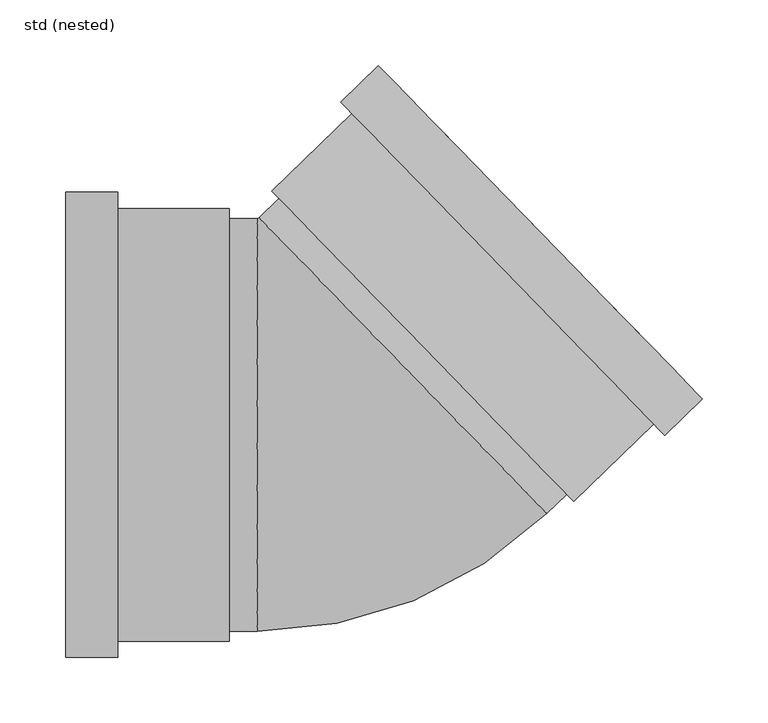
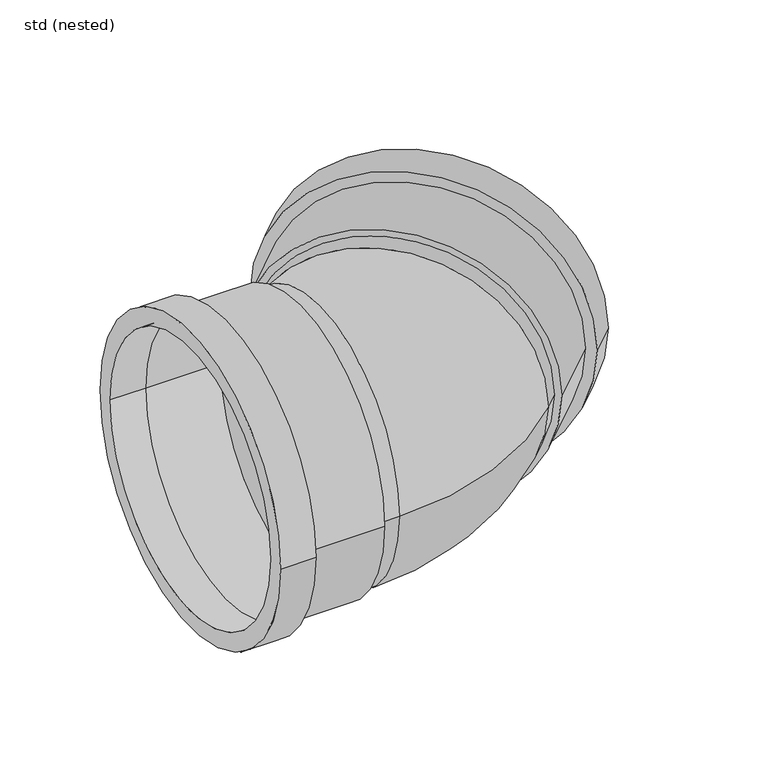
"""IFC4 building model written with IfcOpenShell, lengths in millimetres: pipe fitting geometry, NLRS_52_PIF_UN_SN4 SN8 bocht -SH_Dyka : std (nested)."""

from ifc_helpers import new_model, si_unit, point, frame, origin, place, context, project, spatial, polyline, circle_curve, ellipse_curve, trimmed, source, transform, mapped, element, save
from ifc_brep_helpers import plane_surface, cylinder_surface, revolved_surface, advanced_brep


def std_nested_a8e47236(model_context):
    return source(origin(), model_context, "Body", "AdvancedBrep", [
        advanced_brep(
        [(-211.0, -177.5, 0.0), (-211.0, 177.5, 0.0), (-211.0, -157.5, 0.0), (-211.0, 157.5, 0.0), (-171.0, -157.5, 0.0), (-171.0, 157.5, 0.0), (-171.0, -177.5, 0.0), (-171.0, 177.5, 0.0), (-171.0, -165.2, 0.0), (-171.0, 165.2, 0.0), (-86.0, -165.2, 0.0), (-86.0, 165.2, 0.0), (-86.0, -157.5, 0.0), (-86.0, 157.5, 0.0)],
        [
            (0, 1, circle_curve(frame((-211.0, 0.0, 0.0), z_axis=(-1.0, 0.0, 0.0), x_axis=(0.0, 1.0, 0.0)), 177.5)),
            (1, 0, circle_curve(frame((-211.0, 0.0, 0.0), z_axis=(-1.0, 0.0, 0.0), x_axis=(0.0, 1.0, 0.0)), 177.5)),
            (2, 3, circle_curve(frame((-211.0, 0.0, 0.0), z_axis=(1.0, 0.0, 0.0), x_axis=(0.0, 1.0, 0.0)), 157.5)),
            (3, 2, circle_curve(frame((-211.0, 0.0, 0.0), z_axis=(1.0, 0.0, 0.0), x_axis=(0.0, 1.0, 0.0)), 157.5)),
            (2, 4),
            (4, 5, circle_curve(frame((-171.0, 0.0, 0.0), z_axis=(1.0, 0.0, 0.0), x_axis=(0.0, 1.0, 0.0)), 157.5)),
            (5, 3),
            (5, 4, circle_curve(frame((-171.0, 0.0, 0.0), z_axis=(1.0, 0.0, 0.0), x_axis=(0.0, 1.0, 0.0)), 157.5)),
            (0, 6),
            (6, 7, circle_curve(frame((-171.0, 0.0, 0.0), z_axis=(-1.0, 0.0, 0.0), x_axis=(0.0, 1.0, 0.0)), 177.5)),
            (7, 1),
            (7, 6, circle_curve(frame((-171.0, 0.0, 0.0), z_axis=(-1.0, 0.0, 0.0), x_axis=(0.0, 1.0, 0.0)), 177.5)),
            (8, 9, circle_curve(frame((-171.0, 0.0, 0.0), z_axis=(-1.0, 0.0, 0.0), x_axis=(0.0, 1.0, 0.0)), 165.2)),
            (9, 8, circle_curve(frame((-171.0, 0.0, 0.0), z_axis=(-1.0, 0.0, 0.0), x_axis=(0.0, 1.0, 0.0)), 165.2)),
            (10, 11, circle_curve(frame((-86.0, 0.0, 0.0), z_axis=(1.0, 0.0, 0.0), x_axis=(0.0, 1.0, 0.0)), 165.2)),
            (11, 10, circle_curve(frame((-86.0, 0.0, 0.0), z_axis=(1.0, 0.0, 0.0), x_axis=(0.0, 1.0, 0.0)), 165.2)),
            (12, 13, circle_curve(frame((-86.0, 0.0, 0.0), z_axis=(-1.0, 0.0, 0.0), x_axis=(0.0, 1.0, 0.0)), 157.5)),
            (13, 12, circle_curve(frame((-86.0, 0.0, 0.0), z_axis=(-1.0, 0.0, 0.0), x_axis=(0.0, 1.0, 0.0)), 157.5)),
            (13, 5),
            (4, 12),
            (11, 9),
            (8, 10),
        ],
        [
            plane_surface(frame((-211.0, 157.5, 0.0), z_axis=(-1.0, 0.0, 0.0), x_axis=(0.0, 0.0, 1.0))),
            revolved_surface(polyline([(-171.0, 157.5, 0.0), (-211.0, 157.5, 0.0)]), (-171.0, 0.0, 0.0), (1.0, 0.0, 0.0)),
            cylinder_surface(frame((-86.0, 0.0, 0.0), z_axis=(-1.0, 0.0, 0.0), x_axis=(0.0, 1.0, 0.0)), 177.5),
            plane_surface(frame((-171.0, 157.5, 0.0), z_axis=(1.0, 0.0, 0.0), x_axis=(0.0, 0.0, -1.0))),
            plane_surface(frame((-86.0, 157.5, 0.0), z_axis=(1.0, 0.0, 0.0), x_axis=(0.0, 0.0, -1.0))),
            revolved_surface(polyline([(-86.0, 157.5, 0.0), (-171.0, 157.5, 0.0)]), (-86.0, 0.0, 0.0), (1.0, 0.0, 0.0)),
            cylinder_surface(frame((-86.0, 0.0, 0.0), z_axis=(-1.0, 0.0, 0.0), x_axis=(0.0, 1.0, 0.0)), 165.2),
        ],
        [
            (0, [[1, 2], [3, 4]]),
            (1, [[-3, 5, 6, 7]]),
            (1, [[-4, -7, 8, -5]]),
            (2, [[-1, 9, 10, 11]]),
            (2, [[-2, -11, 12, -9]]),
            (3, [[-12, -10], [13, 14]]),
            (4, [[15, 16], [17, 18]]),
            (5, [[-18, 19, -6, 20]]),
            (5, [[-17, -20, -8, -19]]),
            (6, [[-16, 21, -13, 22]]),
            (6, [[-15, -22, -14, -21]]),
        ],
    ),
        advanced_brep(
        [(27.5695448, 274.3486289, 0.0), (275.018428, 19.8018746, 0.0), (41.5103269, 260.0079667, 0.0), (261.0776459, 34.1425368, 0.0), (12.8290025, 232.1264024, 0.0), (232.3963215, 6.2609725, 0.0), (-1.1117797, 246.4670646, 0.0), (246.3371036, -8.0796898, 0.0), (-53.4860131, 178.3992332, 0.0), (176.8157082, -58.5085067, 0.0), (-48.1188119, 172.8780782, 0.0), (171.448507, -52.9873517, 0.0), (237.7635226, 0.7398175, 0.0), (7.4618014, 237.6475574, 0.0)],
        [
            (0, 1, circle_curve(frame((151.2939864, 147.0752518, 0.0), z_axis=(0.7170331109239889, 0.697039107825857, 0.0), x_axis=(0.697039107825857, -0.7170331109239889, 0.0)), 177.5)),
            (1, 0, circle_curve(frame((151.2939864, 147.0752518, 0.0), z_axis=(0.7170331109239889, 0.697039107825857, 0.0), x_axis=(0.697039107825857, -0.7170331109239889, 0.0)), 177.5)),
            (2, 3, circle_curve(frame((151.2939864, 147.0752518, 0.0), z_axis=(-0.7170331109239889, -0.697039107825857, 0.0), x_axis=(0.697039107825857, -0.7170331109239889, 0.0)), 157.5)),
            (3, 2, circle_curve(frame((151.2939864, 147.0752518, 0.0), z_axis=(-0.7170331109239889, -0.697039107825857, 0.0), x_axis=(0.697039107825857, -0.7170331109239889, 0.0)), 157.5)),
            (2, 4),
            (4, 5, circle_curve(frame((122.612662, 119.1936874, 0.0), z_axis=(-0.7170331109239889, -0.697039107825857, 0.0), x_axis=(0.697039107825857, -0.7170331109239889, 0.0)), 157.5)),
            (5, 3),
            (5, 4, circle_curve(frame((122.612662, 119.1936874, 0.0), z_axis=(-0.7170331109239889, -0.697039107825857, 0.0), x_axis=(0.697039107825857, -0.7170331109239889, 0.0)), 157.5)),
            (0, 6),
            (6, 7, circle_curve(frame((122.612662, 119.1936874, 0.0), z_axis=(0.7170331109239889, 0.697039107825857, 0.0), x_axis=(0.697039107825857, -0.7170331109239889, 0.0)), 177.5)),
            (7, 1),
            (7, 6, circle_curve(frame((122.612662, 119.1936874, 0.0), z_axis=(0.7170331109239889, 0.697039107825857, 0.0), x_axis=(0.697039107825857, -0.7170331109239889, 0.0)), 177.5)),
            (8, 9, circle_curve(frame((61.6648475, 59.9453633, 0.0), z_axis=(-0.7170331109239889, -0.697039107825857, 0.0), x_axis=(0.697039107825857, -0.7170331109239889, 0.0)), 165.2)),
            (9, 8, circle_curve(frame((61.6648475, 59.9453633, 0.0), z_axis=(-0.7170331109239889, -0.697039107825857, 0.0), x_axis=(0.697039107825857, -0.7170331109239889, 0.0)), 165.2)),
            (10, 11, circle_curve(frame((61.6648475, 59.9453633, 0.0), z_axis=(0.7170331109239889, 0.697039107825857, 0.0), x_axis=(0.697039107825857, -0.7170331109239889, 0.0)), 157.5)),
            (11, 10, circle_curve(frame((61.6648475, 59.9453633, 0.0), z_axis=(0.7170331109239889, 0.697039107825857, 0.0), x_axis=(0.697039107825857, -0.7170331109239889, 0.0)), 157.5)),
            (11, 5),
            (4, 10),
            (9, 12),
            (12, 13, circle_curve(frame((122.612662, 119.1936874, 0.0), z_axis=(-0.7170331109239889, -0.697039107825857, 0.0), x_axis=(0.697039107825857, -0.7170331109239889, 0.0)), 165.2)),
            (13, 8),
            (13, 12, circle_curve(frame((122.612662, 119.1936874, 0.0), z_axis=(-0.7170331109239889, -0.697039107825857, 0.0), x_axis=(0.697039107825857, -0.7170331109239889, 0.0)), 165.2)),
        ],
        [
            plane_surface(frame((261.0776459, 34.1425368, 0.0), z_axis=(0.7170331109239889, 0.697039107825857, 0.0), x_axis=(0.0, 0.0, 1.0))),
            revolved_surface(polyline([(232.3963214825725, 6.2609724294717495, 0.0), (261.07764594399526, 34.14253676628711, 0.0)]), (122.612662, 119.1936874, 0.0), (-0.7170331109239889, -0.697039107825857, 0.0)),
            cylinder_surface(frame((61.6648475, 59.9453633, 0.0), z_axis=(0.7170331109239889, 0.697039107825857, 0.0), x_axis=(0.697039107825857, -0.7170331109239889, 0.0)), 177.5),
            plane_surface(frame((171.448507, -52.9873517, 0.0), z_axis=(-0.7170331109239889, -0.697039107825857, 0.0), x_axis=(0.0, 0.0, -1.0))),
            revolved_surface(polyline([(171.4485069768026, -52.98735167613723, 0.0), (232.39632145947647, 6.260972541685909, 0.0)]), (61.6648475, 59.9453633, 0.0), (-0.7170331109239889, -0.697039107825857, 0.0)),
            cylinder_surface(frame((61.6648475, 59.9453633, 0.0), z_axis=(0.7170331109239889, 0.697039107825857, 0.0), x_axis=(0.697039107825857, -0.7170331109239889, 0.0)), 165.2),
            plane_surface(frame((232.3963215, 6.2609725, 0.0), z_axis=(-0.7170331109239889, -0.697039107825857, 0.0), x_axis=(0.0, 0.0, -1.0))),
        ],
        [
            (0, [[1, 2], [3, 4]]),
            (1, [[-3, 5, 6, 7]]),
            (1, [[-4, -7, 8, -5]]),
            (2, [[-1, 9, 10, 11]]),
            (2, [[-2, -11, 12, -9]]),
            (3, [[13, 14], [15, 16]]),
            (4, [[-16, 17, -6, 18]]),
            (4, [[-15, -18, -8, -17]]),
            (5, [[-14, 19, 20, 21]]),
            (5, [[-13, -21, 22, -19]]),
            (6, [[-12, -10], [-20, -22]]),
        ],
    ),
        advanced_brep(
        [(-86.0, -157.5, 0.0), (-86.0, 157.5, 0.0), (-64.749909, -157.5, 0.0), (-64.749909, 0.0, 157.5), (-64.749909, 157.5, 0.0), (-64.749909, 0.0, -157.5), (-63.3558308, 158.0659338, 0.0), (156.2114882, -67.7994962, 0.0), (46.4278287, 45.1332188, 157.5), (46.4278287, 45.1332188, -157.5), (-48.1188119, 172.8780782, 0.0), (171.448507, -52.9873517, 0.0)],
        [
            (0, 1, circle_curve(frame((-86.0, 0.0, 0.0), z_axis=(-1.0, 0.0, 0.0), x_axis=(0.0, 1.0, 0.0)), 157.5)),
            (1, 0, circle_curve(frame((-86.0, 0.0, 0.0), z_axis=(-1.0, 0.0, 0.0), x_axis=(0.0, 1.0, 0.0)), 157.5)),
            (0, 2),
            (2, 3, circle_curve(frame((-64.749909, 0.0, 0.0), z_axis=(-1.0, 0.0, 0.0), x_axis=(0.0, 1.0, 0.0)), 157.5)),
            (3, 4, circle_curve(frame((-64.749909, 0.0, 0.0), z_axis=(-1.0, 0.0, 0.0), x_axis=(0.0, 1.0, 0.0)), 157.5)),
            (4, 1),
            (4, 5, circle_curve(frame((-64.749909, 0.0, 0.0), z_axis=(-1.0, 0.0, 0.0), x_axis=(0.0, 1.0, 0.0)), 157.5)),
            (5, 2, circle_curve(frame((-64.749909, 0.0, 0.0), z_axis=(-1.0, 0.0, 0.0), x_axis=(0.0, 1.0, 0.0)), 157.5)),
            (6, 4, circle_curve(frame((-64.749909, 159.5, 0.0), z_axis=(0.0, 0.0, -1.0), x_axis=(0.0, -1.0, 0.0)), 2.0)),
            (2, 7, circle_curve(frame((-64.749909, 159.5, 0.0), z_axis=(0.0, 0.0, 1.0), x_axis=(0.0, -1.0, 0.0)), 317.0)),
            (7, 8, circle_curve(frame((46.4278287, 45.1332188, 0.0), z_axis=(-0.7170331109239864, -0.6970391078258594, 0.0), x_axis=(-0.6970391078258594, 0.7170331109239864, 0.0)), 157.5)),
            (8, 6, circle_curve(frame((46.4278287, 45.1332188, 0.0), z_axis=(-0.7170331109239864, -0.6970391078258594, 0.0), x_axis=(-0.6970391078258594, 0.7170331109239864, 0.0)), 157.5)),
            (6, 9, circle_curve(frame((46.4278287, 45.1332188, 0.0), z_axis=(-0.7170331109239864, -0.6970391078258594, 0.0), x_axis=(-0.6970391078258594, 0.7170331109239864, 0.0)), 157.5)),
            (9, 7, circle_curve(frame((46.4278287, 45.1332188, 0.0), z_axis=(-0.7170331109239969, -0.6970391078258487, 0.0), x_axis=(-0.6970391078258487, 0.7170331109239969, 0.0)), 157.5)),
            (10, 11, circle_curve(frame((61.6648475, 59.9453633, 0.0), z_axis=(0.7170331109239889, 0.697039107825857, 0.0), x_axis=(0.697039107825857, -0.7170331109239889, 0.0)), 157.5)),
            (11, 10, circle_curve(frame((61.6648475, 59.9453633, 0.0), z_axis=(0.7170331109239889, 0.697039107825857, 0.0), x_axis=(0.697039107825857, -0.7170331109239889, 0.0)), 157.5)),
            (10, 6),
            (7, 11),
        ],
        [
            plane_surface(frame((-86.0, 157.5, 0.0), z_axis=(-1.0, 0.0, 0.0), x_axis=(0.0, 0.0, -1.0))),
            cylinder_surface(frame((-64.749909, 0.0, 0.0), z_axis=(-1.0, 0.0, 0.0), x_axis=(0.0, 1.0, 0.0)), 157.5),
            revolved_surface(trimmed(ellipse_curve(frame((-64.749909, 0.0, 0.0), z_axis=(-1.0, 0.0, 0.0), x_axis=(0.0, 1.0, 0.0)), 157.5, 157.5), [point((-64.749909, -157.5, 0.0))], [point((-64.749909, 157.5, 0.0))], True, "CARTESIAN"), (-64.749909, 159.5, 0.0), (0.0, 0.0, 1.0)),
            revolved_surface(trimmed(ellipse_curve(frame((-64.749909, 0.0, 0.0), z_axis=(-1.0, 0.0, 0.0), x_axis=(0.0, 1.0, 0.0)), 157.5, 157.5), [point((-64.749909, 157.5, 0.0))], [point((-64.749909, -157.5, 0.0))], True, "CARTESIAN"), (-64.749909, 159.5, 0.0), (0.0, 0.0, 1.0)),
            plane_surface(frame((171.448507, -52.9873517, 0.0), z_axis=(0.7170331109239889, 0.6970391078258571, 0.0), x_axis=(0.0, 0.0, -1.0))),
            cylinder_surface(frame((46.4278287, 45.1332188, 0.0), z_axis=(0.7170331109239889, 0.697039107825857, 0.0), x_axis=(0.697039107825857, -0.7170331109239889, 0.0)), 157.5),
        ],
        [
            (0, [[1, 2]]),
            (1, [[-1, 3, 4, 5, 6]]),
            (1, [[-2, -6, 7, 8, -3]]),
            (2, [[9, -5, -4, 10, 11, 12]]),
            (3, [[-9, 13, 14, -10, -8, -7]]),
            (4, [[15, 16]]),
            (5, [[-15, 17, -12, -11, 18]]),
            (5, [[-16, -18, -14, -13, -17]]),
        ],
    ),
    ])


if __name__ == "__main__":
    model = new_model("IFC4")
    model_context = context("Model", 3, world=origin())
    ifc_project = project(units=[si_unit("LENGTHUNIT", "METRE", prefix="MILLI")], contexts=[model_context])
    site = spatial("IfcSite", under=ifc_project)
    building = spatial("IfcBuilding", under=site)
    placement = place(None, origin())
    std_nested_shape = std_nested_a8e47236(model_context)
    element("IfcPipeFitting", 1, ObjectType="NLRS_52_PIF_UN_SN4 SN8 bocht -SH_Dyka : std (nested)", at=placement, inside=building, context=model_context, shape_type="MappedRepresentation", body=[
        mapped(std_nested_shape, transform((0.0, 0.0, 0.0), x_axis=(1.0, 0.0, 0.0), y_axis=(0.0, 1.0, 0.0), z_axis=(0.0, 0.0, 1.0))),
    ])
    save(model, "model.ifc")
